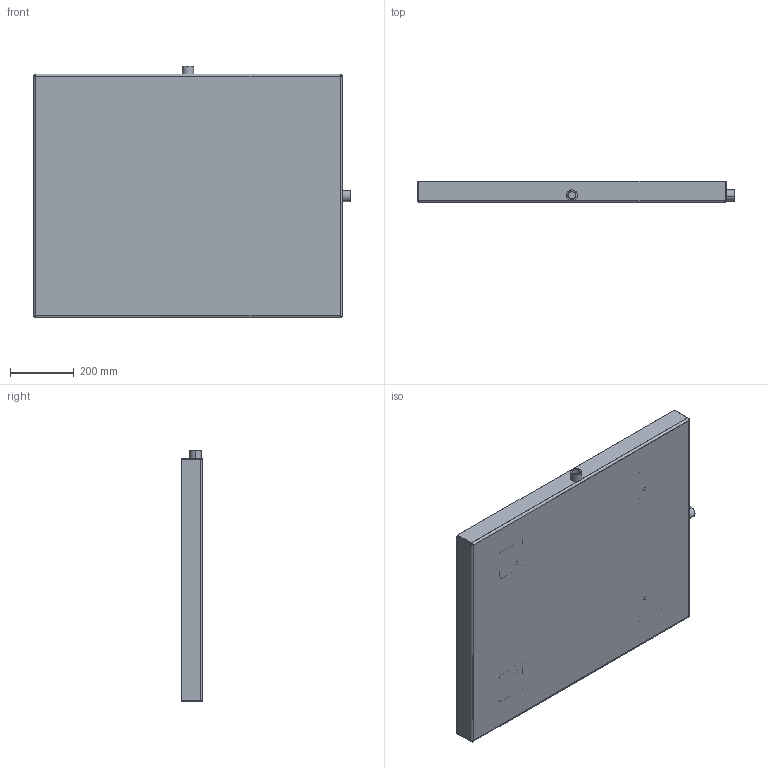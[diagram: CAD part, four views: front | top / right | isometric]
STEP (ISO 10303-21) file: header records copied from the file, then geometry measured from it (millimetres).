
FILE_DESCRIPTION (( 'STEP AP203' ), '1' );
FILE_NAME ('RJDPP015.STEP', '2015-01-07T19:49:33', ( '' ), ( '' ), 'SwSTEP 2.0', 'SolidWorks 2014', '' );
FILE_SCHEMA (( 'CONFIG_CONTROL_DESIGN' ));
Length unit declared in the file: inch
Products named in the file (1): RJDPP015
Bounding box: 990.6 x 66.67 x 787.4 mm (x, y, z)
Volume: 3412180.7 mm3; surface area: 2015541.2 mm2
Topology: 7 solids, 7 shells, 108 faces, 244 edges, 152 vertices
Faces by surface type: plane 52, cylinder 44, bspline 8, cone 4
Entity records: 3651 total; most frequent: CARTESIAN_POINT 1121, DIRECTION 510, ORIENTED_EDGE 488, EDGE_CURVE 244, AXIS2_PLACEMENT_3D 181, VERTEX_POINT 152, LINE 148, VECTOR 148
